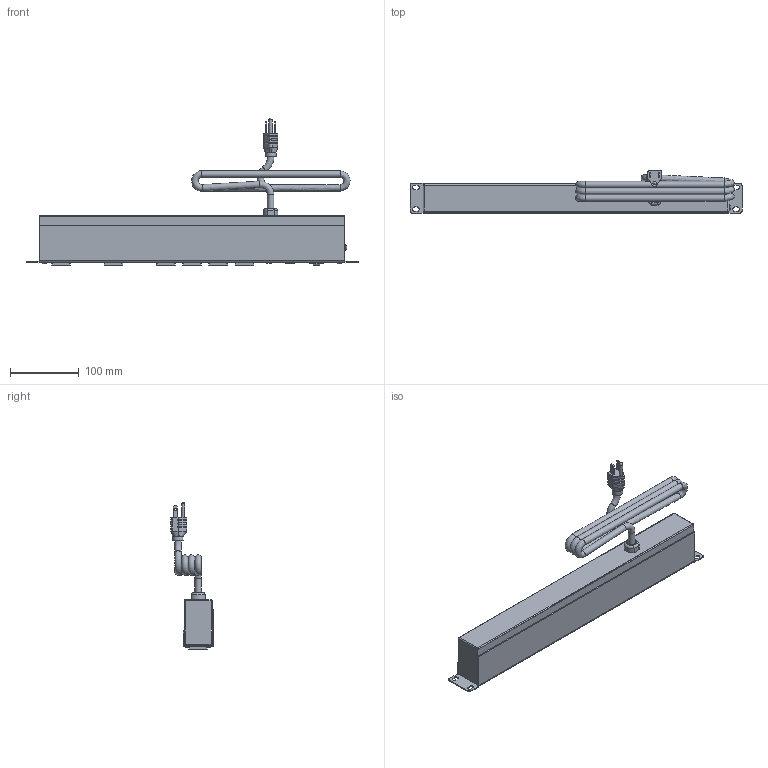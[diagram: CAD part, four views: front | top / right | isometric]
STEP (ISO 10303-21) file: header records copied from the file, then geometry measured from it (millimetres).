
FILE_DESCRIPTION(/* description */ (''),/* implementation_level */ '2;1');
FILE_NAME(/* name */ '1582T6A1SBK.stp',/* time_stamp */ '2025-03-13T13:44:26-04:00',/* author */ ('tfoster'),/* organization */ (''),/* preprocessor_version */ 'ST-DEVELOPER v20',/* originating_system */ 'Autodesk Inventor 2024',/* authorisation */ '');
FILE_SCHEMA (('AUTOMOTIVE_DESIGN { 1 0 10303 214 3 1 1 }'));
Products named in the file (10): 1582H6A1BK; 1582 Front plate; 1582 Back Plate; #24657; Reset Switch; Cored 2; Receptacle; Surge Light; tamper proof screw; Power light
Assembly tree (17 placements, depth 2):
  1582H6A1BK
    1582 Front plate
    1582 Back Plate
    #24657  x4
    Reset Switch
    Cored 2
    Receptacle  x6
    Surge Light
    tamper proof screw
    Power light
Bounding box: 482.6 x 61.48 x 214.29 mm (x, y, z)
Volume: 348156.4 mm3; surface area: 300459 mm2
Topology: 17 solids, 17 shells, 989 faces, 2671 edges, 1721 vertices
Faces by surface type: plane 579, cylinder 273, bspline 67, sphere 31, cone 25, torus 14
Full cylindrical faces by diameter (mm): 1.803 x3, 1.905 x2, 2.13 x20, 2.997 x4, 3 x2, 3.505 x12, 4.775 x1, 4.801 x1, 5.563 x4, 6.858 x1, 7.747 x1, 7.95 x1, 9.5 x5, 9.652 x1, 11 x1, 15.621 x1, 16.002 x1
Entity records: 24407 total; most frequent: CARTESIAN_POINT 9148, ORIENTED_EDGE 3248, DIRECTION 2820, EDGE_CURVE 1624, LINE 1066, VECTOR 1066, VERTEX_POINT 1059, AXIS2_PLACEMENT_3D 877
